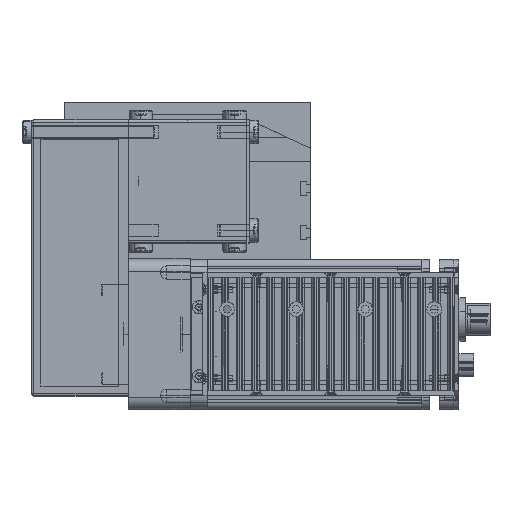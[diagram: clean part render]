
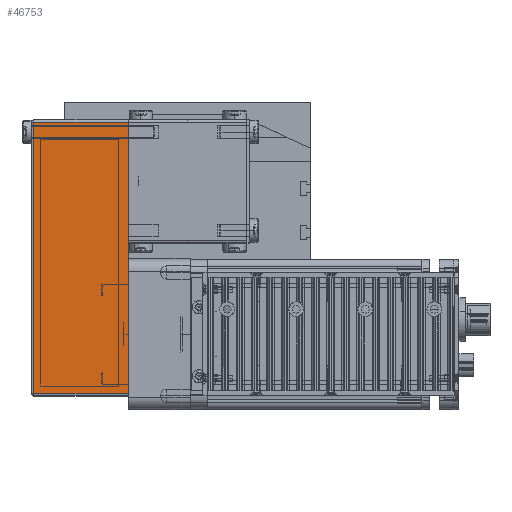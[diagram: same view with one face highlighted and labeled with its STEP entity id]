
A CAD part, top view. The second image highlights one B-rep face of the part: STEP entity #46753.
In plain terms, the highlighted planar face has unit normal (0, 0, 1) as drawn and (0, 1, 0) by its records, which use the part's own axes.
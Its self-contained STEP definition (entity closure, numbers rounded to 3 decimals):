
#15890 = DIRECTION ( 'NONE',  ( 0., 0., -1. ) ) ;
#15898 = VECTOR ( 'NONE', #15890, 1000. ) ;
#15899 = CARTESIAN_POINT ( 'NONE',  ( -49., 25., 39.5 ) ) ;
#15900 = LINE ( 'NONE', #15899, #15898 ) ;
#19921 = CARTESIAN_POINT ( 'NONE',  ( -49., 25., 38.5 ) ) ;
#24655 = CARTESIAN_POINT ( 'NONE',  ( 61., 25., 38.5 ) ) ;
#24738 = CARTESIAN_POINT ( 'NONE',  ( 61., 25., 0. ) ) ;
#24896 = DIRECTION ( 'NONE',  ( 0., 0., 1. ) ) ;
#24897 = VECTOR ( 'NONE', #24896, 1000. ) ;
#24898 = LINE ( 'NONE', #24910, #24897 ) ;
#24910 = CARTESIAN_POINT ( 'NONE',  ( 61., 25., 39.5 ) ) ;
#25744 = CARTESIAN_POINT ( 'NONE',  ( -49., 25., 0. ) ) ;
#26163 = AXIS2_PLACEMENT_3D ( 'NONE', #26205, #26204, #26203 ) ;
#26164 = FACE_OUTER_BOUND ( 'NONE', #46749, .T. ) ;
#26186 = DIRECTION ( 'NONE',  ( -1., 0., 0. ) ) ;
#26187 = VECTOR ( 'NONE', #26186, 1000. ) ;
#26188 = CARTESIAN_POINT ( 'NONE',  ( -50., 25., 38.5 ) ) ;
#26189 = LINE ( 'NONE', #26188, #26187 ) ;
#26203 = DIRECTION ( 'NONE',  ( 0., 0., -1. ) ) ;
#26204 = DIRECTION ( 'NONE',  ( 0., -1., 0. ) ) ;
#26205 = CARTESIAN_POINT ( 'NONE',  ( -50., 25., 39.5 ) ) ;
#26208 = PLANE ( 'NONE',  #26163 ) ;
#26324 = DIRECTION ( 'NONE',  ( -1., 0., 0. ) ) ;
#26325 = VECTOR ( 'NONE', #26324, 1000. ) ;
#26326 = CARTESIAN_POINT ( 'NONE',  ( -50., 25., 0. ) ) ;
#26327 = LINE ( 'NONE', #26326, #26325 ) ;
#41332 = EDGE_CURVE ( 'NONE', #43404, #46480, #15900, .T. ) ;
#43404 = VERTEX_POINT ( 'NONE', #19921 ) ;
#45923 = VERTEX_POINT ( 'NONE', #24655 ) ;
#45937 = VERTEX_POINT ( 'NONE', #24738 ) ;
#46053 = EDGE_CURVE ( 'NONE', #45937, #45923, #24898, .T. ) ;
#46480 = VERTEX_POINT ( 'NONE', #25744 ) ;
#46658 = ORIENTED_EDGE ( 'NONE', *, *, #46727, .F. ) ;
#46660 = ORIENTED_EDGE ( 'NONE', *, *, #41332, .F. ) ;
#46727 = EDGE_CURVE ( 'NONE', #45923, #43404, #26189, .T. ) ;
#46749 = EDGE_LOOP ( 'NONE', ( #46660, #46658, #46811, #46821 ) ) ;
#46753 = ADVANCED_FACE ( 'NONE', ( #26164 ), #26208, .F. ) ;
#46811 = ORIENTED_EDGE ( 'NONE', *, *, #46053, .F. ) ;
#46821 = ORIENTED_EDGE ( 'NONE', *, *, #46823, .T. ) ;
#46823 = EDGE_CURVE ( 'NONE', #45937, #46480, #26327, .T. ) ;
